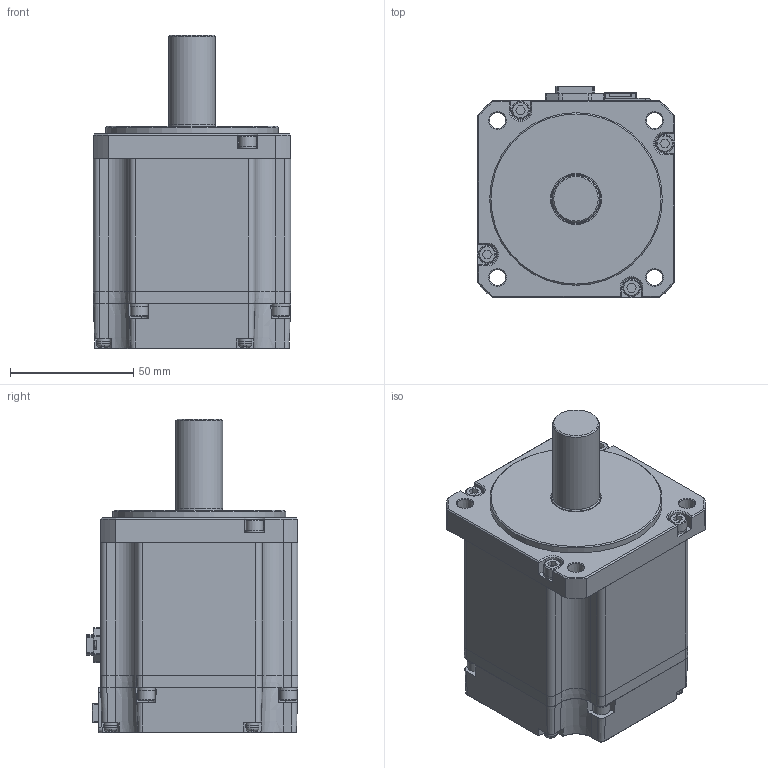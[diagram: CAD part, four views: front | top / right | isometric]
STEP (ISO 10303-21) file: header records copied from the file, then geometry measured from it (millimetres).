
FILE_DESCRIPTION (( 'STEP AP214' ), '1' );
FILE_NAME ('EM08GA003G02_Out Line(APM-EC06AM3N).STEP', '2022-11-10T03:15:58', ( '' ), ( '' ), 'SwSTEP 2.0', 'SolidWorks 2021', '' );
FILE_SCHEMA (( 'AUTOMOTIVE_DESIGN' ));
Length unit declared in the file: millimetre
Products named in the file (1): EM08GA003G02_Out Line(APM-EC06AM3N)
Bounding box: 80 x 85.9 x 127.2 mm (x, y, z)
Volume: 513744.2 mm3; surface area: 87452.9 mm2
Topology: 33 solids, 33 shells, 1427 faces, 3541 edges, 2250 vertices
Faces by surface type: plane 1031, cylinder 206, cone 124, torus 31, bspline 21, sphere 14
Full cylindrical faces by diameter (mm): 1.589 x1, 1.6 x9, 2 x2, 2.1 x2, 2.5 x4, 3 x8, 3.3 x8, 4 x12, 4.5 x8, 5.4 x8, 7 x8, 7.2 x8, 19 x1, 19.8 x1, 20.6 x1, 70 x1
Entity records: 57834 total; most frequent: CARTESIAN_POINT 8799, ORIENTED_EDGE 6716, DIRECTION 6499, EDGE_CURVE 3358, LINE 2495, VECTOR 2495, VERTEX_POINT 2211, AXIS2_PLACEMENT_3D 2002
